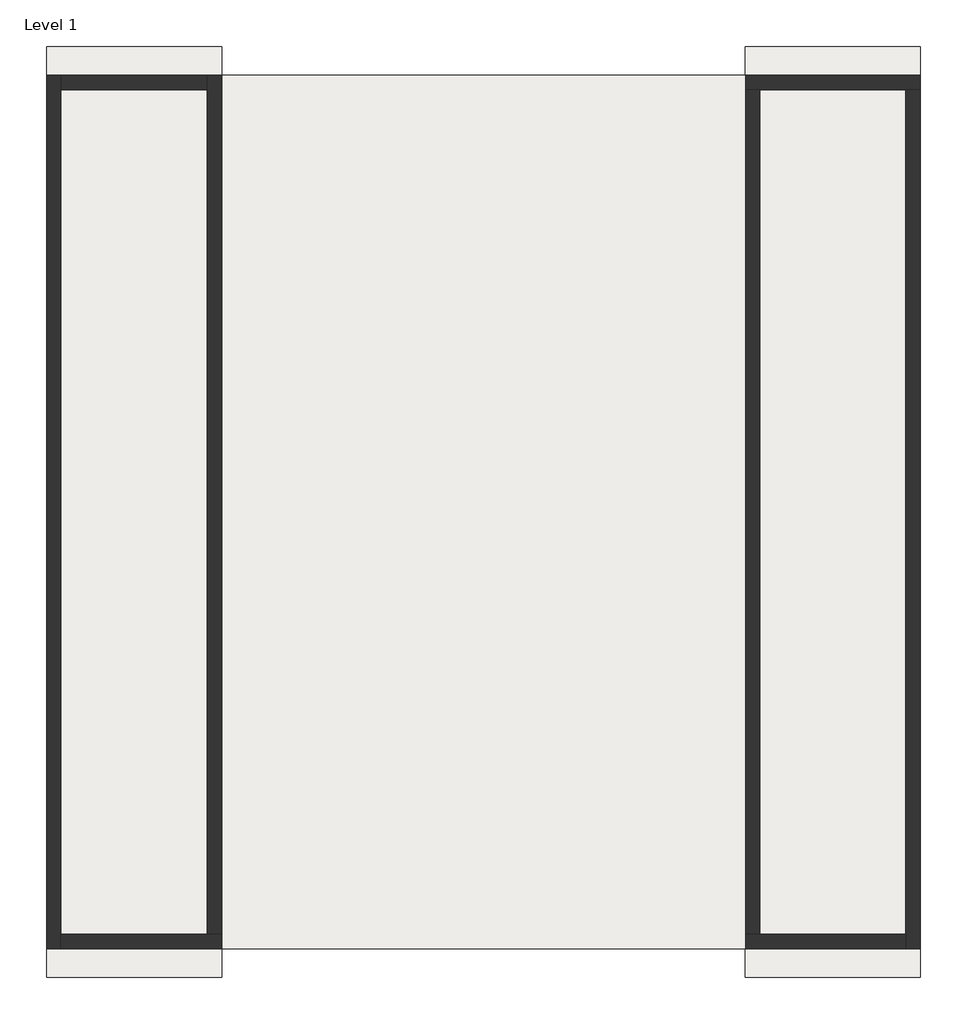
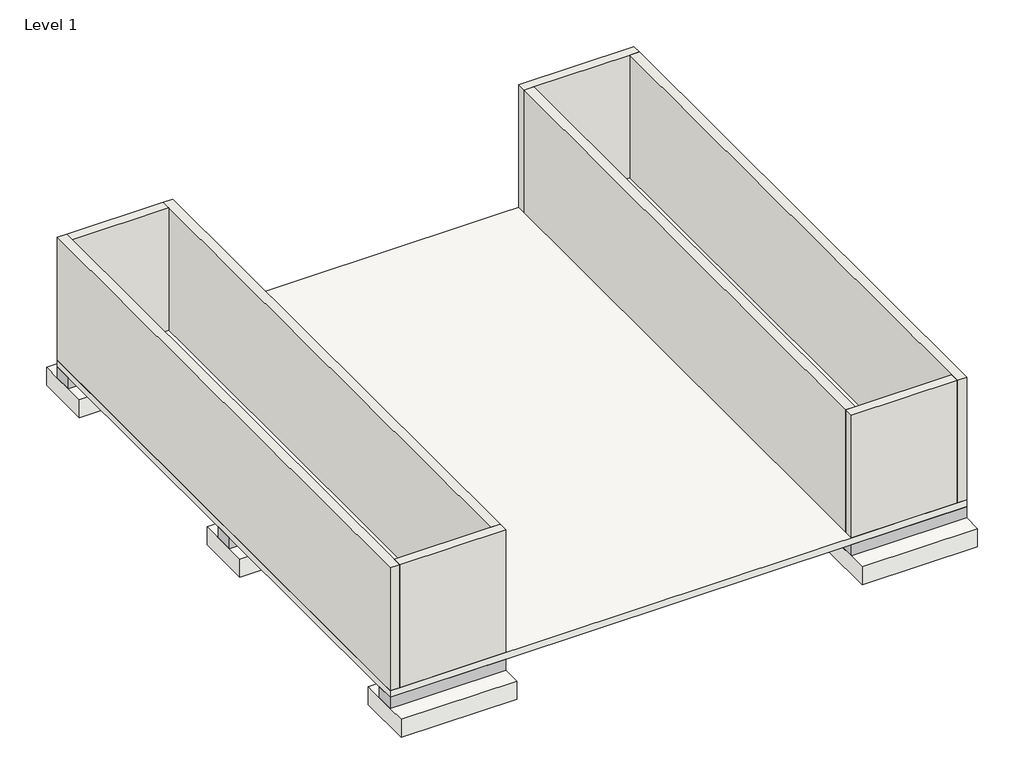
# One storey: 8 walls, 7 slabs, 6 beams.
"""IFC4 building model written with IfcOpenShell, lengths in millimetres."""

from ifc_helpers import new_model, si_unit, frame, origin, origin_with_axes, place, context, project, spatial, polyline, outline, extrude, faceted_brep, element, save

model = new_model("IFC4")

# Units and contexts
model_context = context("Model", 3, world=origin())
ifc_project = project(units=[si_unit("LENGTHUNIT", "METRE", prefix="MILLI")], contexts=[model_context])

# Site, building, storey
site = spatial("IfcSite", under=ifc_project)
building = spatial("IfcBuilding", under=site)
storey = spatial("IfcBuildingStorey", under=building, Name="Level 1", Elevation=400.0)

# Beams
placement = place(None, origin())
element("IfcBeam", 1, ObjectType="M_Concrete-Rectangular Beam : 400 x 400mm", at=placement, inside=storey, context=model_context, shape_type="SweptSolid", body=[
    extrude(outline(polyline([(5540.3608738, -5699.6062186), (5540.3608738, -5299.6062186), (7970.3608738, -5299.6062186), (7970.3608738, -5699.6062186), (5540.3608738, -5699.6062186)])), origin_with_axes(), (0.0, 0.0, 1.0), 250.0),
])
element("IfcBeam", 2, ObjectType="M_Concrete-Rectangular Beam : 400 x 400mm", at=placement, inside=storey, context=model_context, shape_type="SweptSolid", body=[
    extrude(outline(polyline([(7970.3608738, 585.3937814), (7970.3608738, 185.3937814), (5540.3608738, 185.3937814), (5540.3608738, 585.3937814), (7970.3608738, 585.3937814)])), origin_with_axes(), (0.0, 0.0, 1.0), 250.0),
])
element("IfcBeam", 3, ObjectType="M_Concrete-Rectangular Beam : 400 x 400mm", at=placement, inside=storey, context=model_context, shape_type="SweptSolid", body=[
    extrude(outline(polyline([(5540.3608738, 6070.3937814), (5540.3608738, 6470.3937814), (7970.3608738, 6470.3937814), (7970.3608738, 6070.3937814), (5540.3608738, 6070.3937814)])), origin_with_axes(), (0.0, 0.0, 1.0), 250.0),
])
element("IfcBeam", 4, ObjectType="M_Concrete-Rectangular Beam : 400 x 400mm", at=placement, inside=storey, context=model_context, shape_type="SweptSolid", body=[
    extrude(outline(polyline([(-4199.6391262, 6070.3937814), (-4199.6391262, 6470.3937814), (-1761.6391262, 6470.3937814), (-1761.6391262, 6070.3937814), (-4199.6391262, 6070.3937814)])), origin_with_axes(), (0.0, 0.0, 1.0), 250.0),
])
element("IfcBeam", 5, ObjectType="M_Concrete-Rectangular Beam : 400 x 400mm", at=placement, inside=storey, context=model_context, shape_type="SweptSolid", body=[
    extrude(outline(polyline([(-4199.6391262, 185.3937814), (-4199.6391262, 585.3937814), (-1761.6391262, 585.3937814), (-1761.6391262, 185.3937814), (-4199.6391262, 185.3937814)])), origin_with_axes(), (0.0, 0.0, 1.0), 250.0),
])
element("IfcBeam", 6, ObjectType="M_Concrete-Rectangular Beam : 400 x 400mm", at=placement, inside=storey, context=model_context, shape_type="SweptSolid", body=[
    extrude(outline(polyline([(-4199.6391262, -5699.6062186), (-4199.6391262, -5299.6062186), (-1761.6391262, -5299.6062186), (-1761.6391262, -5699.6062186), (-4199.6391262, -5699.6062186)])), origin_with_axes(), (0.0, 0.0, 1.0), 250.0),
])

# Slabs
element("IfcSlab", 7, ObjectType="150mm Foundation Slab", at=placement, inside=storey, context=model_context, shape_type="Brep", body=[
    faceted_brep([(-4199.6391262, 6470.3937814, 250.0), (-1761.6391262, 6470.3937814, 250.0), (5540.3608738, 6470.3937814, 250.0), (7970.3608738, 6470.3937814, 250.0), (7970.3608738, 6070.3937814, 250.0), (7970.3608738, 585.3937814, 250.0), (7970.3608738, 185.3937814, 250.0), (7970.3608738, -5299.6062186, 250.0), (7970.3608738, -5699.6062186, 250.0), (5540.3608738, -5699.6062186, 250.0), (-1761.6391262, -5699.6062186, 250.0), (-4199.6391262, -5699.6062186, 250.0), (-4199.6391262, -5299.6062186, 250.0), (-4199.6391262, 185.3937814, 250.0), (-4199.6391262, 585.3937814, 250.0), (-4199.6391262, 6070.3937814, 250.0), (-4199.6391262, 6470.3937814, 400.0), (-4199.6391262, -5699.6062186, 400.0), (7970.3608738, -5699.6062186, 400.0), (7970.3608738, 6470.3937814, 400.0)], [[[0, 1, 2, 3, 4, 5, 6, 7, 8, 9, 10, 11, 12, 13, 14, 15]], [[16, 17, 18, 19]], [[3, 2, 1, 0, 16, 19]], [[8, 7, 6, 5, 4, 3, 19, 18]], [[11, 10, 9, 8, 18, 17]], [[0, 15, 14, 13, 12, 11, 17, 16]]]),
])
element("IfcSlab", 8, ObjectType="M_Footing-Rectangular : 2400 x 1800 x 450mm", at=placement, inside=storey, context=model_context, shape_type="Brep", body=[
    faceted_brep([(-1761.6391262, 6870.3937814, 0.0), (-4199.6391262, 6870.3937814, 0.0), (-4199.6391262, 6470.3937814, 0.0), (-4199.6391262, 6070.3937814, 0.0), (-4199.6391262, 5670.3937814, 0.0), (-1761.6391262, 5670.3937814, 0.0), (-1761.6391262, 6070.3937814, 0.0), (-1761.6391262, 6470.3937814, 0.0), (-1761.6391262, 6870.3937814, -400.0), (-1761.6391262, 5670.3937814, -400.0), (-4199.6391262, 5670.3937814, -400.0), (-4199.6391262, 6870.3937814, -400.0)], [[[0, 1, 2, 3, 4, 5, 6, 7]], [[8, 9, 10, 11]], [[1, 0, 8, 11]], [[4, 3, 2, 1, 11, 10]], [[5, 4, 10, 9]], [[0, 7, 6, 5, 9, 8]]]),
])
element("IfcSlab", 9, ObjectType="M_Footing-Rectangular : 2400 x 1800 x 450mm", at=placement, inside=storey, context=model_context, shape_type="Brep", body=[
    faceted_brep([(7970.3608738, 6870.3937814, 0.0), (5532.3608738, 6870.3937814, 0.0), (5532.3608738, 5670.3937814, 0.0), (7970.3608738, 5670.3937814, 0.0), (7970.3608738, 6070.3937814, 0.0), (7970.3608738, 6470.3937814, 0.0), (7970.3608738, 6870.3937814, -400.0), (7970.3608738, 5670.3937814, -400.0), (5532.3608738, 5670.3937814, -400.0), (5532.3608738, 6870.3937814, -400.0)], [[[0, 1, 2, 3, 4, 5]], [[6, 7, 8, 9]], [[1, 0, 6, 9]], [[2, 1, 9, 8]], [[3, 2, 8, 7]], [[0, 5, 4, 3, 7, 6]]]),
])
element("IfcSlab", 10, ObjectType="M_Footing-Rectangular : 2400 x 1800 x 450mm", at=placement, inside=storey, context=model_context, shape_type="Brep", body=[
    faceted_brep([(-1761.6391262, -4899.6062186, 0.0), (-4199.6391262, -4899.6062186, 0.0), (-4199.6391262, -5299.6062186, 0.0), (-4199.6391262, -5699.6062186, 0.0), (-4199.6391262, -6099.6062186, 0.0), (-1761.6391262, -6099.6062186, 0.0), (-1761.6391262, -5699.6062186, 0.0), (-1761.6391262, -5299.6062186, 0.0), (-1761.6391262, -4899.6062186, -400.0), (-1761.6391262, -6099.6062186, -400.0), (-4199.6391262, -6099.6062186, -400.0), (-4199.6391262, -4899.6062186, -400.0)], [[[0, 1, 2, 3, 4, 5, 6, 7]], [[8, 9, 10, 11]], [[1, 0, 8, 11]], [[4, 3, 2, 1, 11, 10]], [[5, 4, 10, 9]], [[0, 7, 6, 5, 9, 8]]]),
])
element("IfcSlab", 11, ObjectType="M_Footing-Rectangular : 2400 x 1800 x 450mm", at=placement, inside=storey, context=model_context, shape_type="Brep", body=[
    faceted_brep([(-1761.6391262, 996.3937814, 0.0), (-4199.6391262, 996.3937814, 0.0), (-4199.6391262, 585.3937814, 0.0), (-4199.6391262, 185.3937814, 0.0), (-4199.6391262, -203.6062186, 0.0), (-1761.6391262, -203.6062186, 0.0), (-1761.6391262, 185.3937814, 0.0), (-1761.6391262, 585.3937814, 0.0), (-1761.6391262, 996.3937814, -400.0), (-1761.6391262, -203.6062186, -400.0), (-4199.6391262, -203.6062186, -400.0), (-4199.6391262, 996.3937814, -400.0)], [[[0, 1, 2, 3, 4, 5, 6, 7]], [[8, 9, 10, 11]], [[1, 0, 8, 11]], [[4, 3, 2, 1, 11, 10]], [[5, 4, 10, 9]], [[0, 7, 6, 5, 9, 8]]]),
])
element("IfcSlab", 12, ObjectType="M_Footing-Rectangular : 2400 x 1800 x 450mm", at=placement, inside=storey, context=model_context, shape_type="Brep", body=[
    faceted_brep([(7970.3608738, 996.3937814, 0.0), (5532.3608738, 996.3937814, 0.0), (5532.3608738, -203.6062186, 0.0), (7970.3608738, -203.6062186, 0.0), (7970.3608738, 185.3937814, 0.0), (7970.3608738, 585.3937814, 0.0), (7970.3608738, 996.3937814, -400.0), (7970.3608738, -203.6062186, -400.0), (5532.3608738, -203.6062186, -400.0), (5532.3608738, 996.3937814, -400.0)], [[[0, 1, 2, 3, 4, 5]], [[6, 7, 8, 9]], [[1, 0, 6, 9]], [[2, 1, 9, 8]], [[3, 2, 8, 7]], [[0, 5, 4, 3, 7, 6]]]),
])
element("IfcSlab", 13, ObjectType="M_Footing-Rectangular : 2400 x 1800 x 450mm", at=placement, inside=storey, context=model_context, shape_type="Brep", body=[
    faceted_brep([(7970.3608738, -4899.6062186, 0.0), (5532.3608738, -4899.6062186, 0.0), (5532.3608738, -6099.6062186, 0.0), (7970.3608738, -6099.6062186, 0.0), (7970.3608738, -5699.6062186, 0.0), (7970.3608738, -5299.6062186, 0.0), (7970.3608738, -4899.6062186, -400.0), (7970.3608738, -6099.6062186, -400.0), (5532.3608738, -6099.6062186, -400.0), (5532.3608738, -4899.6062186, -400.0)], [[[0, 1, 2, 3, 4, 5]], [[6, 7, 8, 9]], [[1, 0, 6, 9]], [[2, 1, 9, 8]], [[3, 2, 8, 7]], [[0, 5, 4, 3, 7, 6]]]),
])

# Walls
element("IfcWall", 14, ObjectType="Generic - 200mm", at=placement, inside=storey, context=model_context, shape_type="Brep", body=[
    faceted_brep([(-4199.6391262, 6470.3937814, 400.0), (-4199.6391262, -5699.6062186, 400.0), (-4199.6391262, -5699.6062186, 3140.0), (-4199.6391262, 6470.3937814, 3140.0), (-3999.6391262, 6470.3937814, 400.0), (-3999.6391262, 6470.3937814, 3140.0), (-3999.6391262, 6270.3937814, 3140.0), (-3999.6391262, -5499.6062186, 3140.0), (-3999.6391262, -5699.6062186, 3140.0), (-3999.6391262, -5699.6062186, 400.0), (-3999.6391262, -5499.6062186, 400.0), (-3999.6391262, 6270.3937814, 400.0)], [[[0, 1, 2, 3]], [[4, 5, 6, 7, 8, 9, 10, 11]], [[1, 0, 4, 11, 10, 9]], [[2, 1, 9, 8]], [[0, 3, 5, 4]], [[3, 2, 8, 7, 6, 5]]]),
])
element("IfcWall", 15, ObjectType="Generic - 200mm", at=placement, inside=storey, context=model_context, shape_type="Brep", body=[
    faceted_brep([(-3999.6391262, -5699.6062186, 400.0), (-1761.6391262, -5699.6062186, 400.0), (-1761.6391262, -5699.6062186, 3140.0), (-3999.6391262, -5699.6062186, 3140.0), (-3999.6391262, -5499.6062186, 400.0), (-3999.6391262, -5499.6062186, 3140.0), (-1961.6391262, -5499.6062186, 3140.0), (-1761.6391262, -5499.6062186, 3140.0), (-1761.6391262, -5499.6062186, 400.0)], [[[0, 1, 2, 3]], [[4, 5, 6, 7, 8]], [[1, 0, 4, 8]], [[2, 1, 8, 7]], [[0, 3, 5, 4]], [[3, 2, 7, 6, 5]]]),
])
element("IfcWall", 16, ObjectType="Generic - 200mm", at=placement, inside=storey, context=model_context, shape_type="Brep", body=[
    faceted_brep([(-1761.6391262, -5499.6062186, 380.7478542), (-1761.6391262, 6470.3937814, 380.7478542), (-1761.6391262, 6470.3937814, 3140.0), (-1761.6391262, -5499.6062186, 3140.0), (-1761.6391262, -5499.6062186, 400.0), (-1961.6391262, -5499.6062186, 380.7478542), (-1961.6391262, -5499.6062186, 3140.0), (-1961.6391262, 6270.3937814, 3140.0), (-1961.6391262, 6470.3937814, 3140.0), (-1961.6391262, 6470.3937814, 400.0), (-1961.6391262, 6470.3937814, 380.7478542)], [[[0, 1, 2, 3, 4]], [[5, 6, 7, 8, 9, 10]], [[1, 0, 5, 10]], [[0, 4, 3, 6, 5]], [[2, 1, 10, 9, 8]], [[3, 2, 8, 7, 6]]]),
])
element("IfcWall", 17, ObjectType="Generic - 200mm", at=placement, inside=storey, context=model_context, shape_type="SweptSolid", body=[
    extrude(outline(polyline([(-3999.6391262, 6470.3937814), (-1961.6391262, 6470.3937814), (-1961.6391262, 6270.3937814), (-3999.6391262, 6270.3937814), (-3999.6391262, 6470.3937814)])), frame((0.0, 0.0, 400.0), z_axis=(0.0, 0.0, 1.0), x_axis=(1.0, 0.0, 0.0)), (0.0, 0.0, 1.0), 2740.0),
])
element("IfcWall", 18, ObjectType="Generic - 200mm", at=placement, inside=storey, context=model_context, shape_type="Brep", body=[
    faceted_brep([(5540.3608738, 6270.3937814, 400.0), (5740.3608738, 6270.3937814, 400.0), (7770.3608738, 6270.3937814, 400.0), (7970.3608738, 6270.3937814, 400.0), (7970.3608738, 6270.3937814, 3140.0), (7770.3608738, 6270.3937814, 3140.0), (5740.3608738, 6270.3937814, 3140.0), (5540.3608738, 6270.3937814, 3140.0), (5540.3608738, 6470.3937814, 400.0), (5540.3608738, 6470.3937814, 3140.0), (7970.3608738, 6470.3937814, 3140.0), (7970.3608738, 6470.3937814, 400.0)], [[[0, 1, 2, 3, 4, 5, 6, 7]], [[8, 9, 10, 11]], [[3, 2, 1, 0, 8, 11]], [[4, 3, 11, 10]], [[0, 7, 9, 8]], [[7, 6, 5, 4, 10, 9]]]),
])
element("IfcWall", 19, ObjectType="Generic - 200mm", at=placement, inside=storey, context=model_context, shape_type="Brep", body=[
    faceted_brep([(7770.3608738, 6270.3937814, 400.0), (7770.3608738, -5499.6062186, 400.0), (7770.3608738, -5699.6062186, 400.0), (7770.3608738, -5699.6062186, 3140.0), (7770.3608738, -5499.6062186, 3140.0), (7770.3608738, 6270.3937814, 3140.0), (7970.3608738, 6270.3937814, 400.0), (7970.3608738, 6270.3937814, 3140.0), (7970.3608738, -5699.6062186, 3140.0), (7970.3608738, -5699.6062186, 400.0)], [[[0, 1, 2, 3, 4, 5]], [[6, 7, 8, 9]], [[2, 1, 0, 6, 9]], [[0, 5, 7, 6]], [[3, 2, 9, 8]], [[5, 4, 3, 8, 7]]]),
])
element("IfcWall", 20, ObjectType="Generic - 200mm", at=placement, inside=storey, context=model_context, shape_type="Brep", body=[
    faceted_brep([(7770.3608738, -5499.6062186, 400.0), (5740.3608738, -5499.6062186, 400.0), (5540.3608738, -5499.6062186, 400.0), (5540.3608738, -5499.6062186, 3140.0), (5740.3608738, -5499.6062186, 3140.0), (7770.3608738, -5499.6062186, 3140.0), (7770.3608738, -5699.6062186, 400.0), (7770.3608738, -5699.6062186, 3140.0), (5540.3608738, -5699.6062186, 3140.0), (5540.3608738, -5699.6062186, 400.0)], [[[0, 1, 2, 3, 4, 5]], [[6, 7, 8, 9]], [[2, 1, 0, 6, 9]], [[0, 5, 7, 6]], [[3, 2, 9, 8]], [[5, 4, 3, 8, 7]]]),
])
element("IfcWall", 21, ObjectType="Generic - 200mm", at=placement, inside=storey, context=model_context, shape_type="SweptSolid", body=[
    extrude(outline(polyline([(5740.3608738, 6270.3937814), (5740.3608738, -5499.6062186), (5540.3608738, -5499.6062186), (5540.3608738, 6270.3937814), (5740.3608738, 6270.3937814)])), frame((0.0, 0.0, 400.0), z_axis=(0.0, 0.0, 1.0), x_axis=(1.0, 0.0, 0.0)), (0.0, 0.0, 1.0), 2740.0),
])

save(model, "model.ifc")
